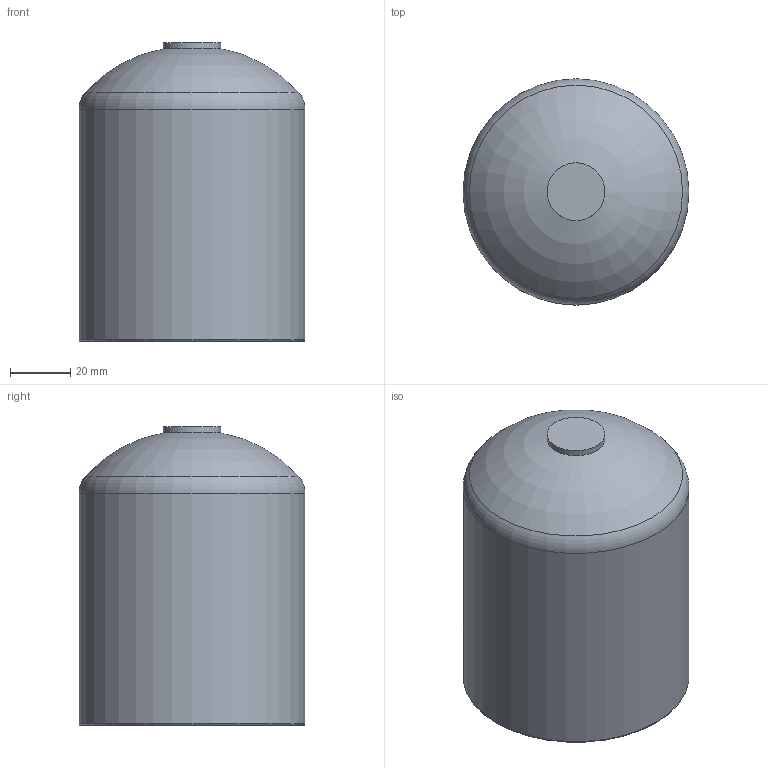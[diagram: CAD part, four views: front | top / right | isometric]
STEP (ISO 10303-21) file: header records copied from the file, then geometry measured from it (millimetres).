
FILE_DESCRIPTION(/* description */ ('Unknown'),/* implementation_level */ '2;1');
FILE_NAME(/* name */ 'CAP075G',/* time_stamp */ '2022-04-05T11:52:04+02:00',/* author */ ('Unknown'),/* organization */ ('Unknown'),/* preprocessor_version */ 'ST-DEVELOPER v18.1',/* originating_system */ 'Solid Edge',/* authorisation */ 'Unknown');
FILE_SCHEMA (('AUTOMOTIVE_DESIGN {1 0 10303 214 3 1 1}'));
Length unit declared in the file: millimetre
Products named in the file (1): CAP075G
Bounding box: 75 x 75 x 99 mm (x, y, z)
Volume: 175718.6 mm3; surface area: 43748.3 mm2
Topology: 1 solids, 1 shells, 34 faces, 84 edges, 52 vertices
Faces by surface type: torus 14, bspline 10, plane 7, cylinder 3
Full cylindrical faces by diameter (mm): 19.187 x1, 58.2 x1, 75 x1
Entity records: 1088 total; most frequent: CARTESIAN_POINT 420, ORIENTED_EDGE 144, DIRECTION 104, EDGE_CURVE 72, AXIS2_PLACEMENT_3D 52, VERTEX_POINT 48, B_SPLINE_CURVE_WITH_KNOTS 45, FACE_BOUND 42
